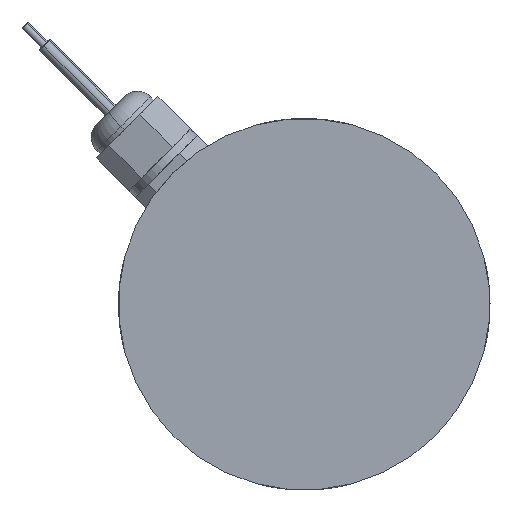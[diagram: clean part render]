
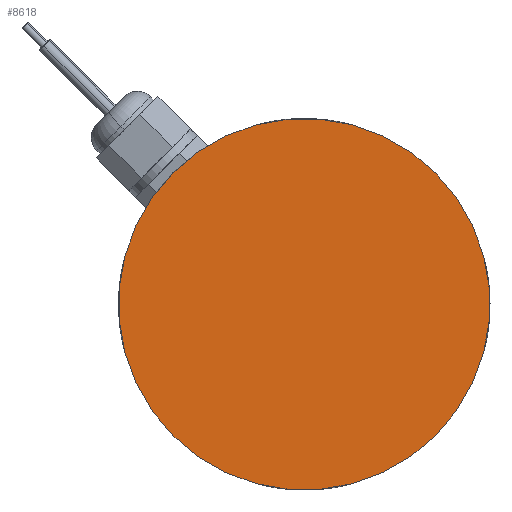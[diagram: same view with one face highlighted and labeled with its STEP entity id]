
A CAD part, left-side view. The second image highlights one B-rep face of the part: STEP entity #8618.
In plain terms, the highlighted planar face has unit normal (-1, 0, 0).
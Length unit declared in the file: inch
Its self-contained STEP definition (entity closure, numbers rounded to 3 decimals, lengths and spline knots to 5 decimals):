
#694 = CARTESIAN_POINT ( 'NONE',  ( -2.25027, 6.13337, 6.63344 ) ) ;
#830 = VERTEX_POINT ( 'NONE', #11796 ) ;
#1307 = CIRCLE ( 'NONE', #9217, 2. ) ;
#1996 = AXIS2_PLACEMENT_3D ( 'NONE', #10330, #12402, #2447 ) ;
#2036 = CARTESIAN_POINT ( 'NONE',  ( -2.25027, 4.71916, 8.04765 ) ) ;
#2400 = PLANE ( 'NONE',  #1996 ) ;
#2447 = DIRECTION ( 'NONE',  ( 0., -0.707, 0.707 ) ) ;
#3165 = EDGE_CURVE ( 'NONE', #830, #6399, #1307, .T. ) ;
#3465 = ORIENTED_EDGE ( 'NONE', *, *, #5404, .F. ) ;
#3638 = CIRCLE ( 'NONE', #7113, 2. ) ;
#4057 = DIRECTION ( 'NONE',  ( 1., 0., 0. ) ) ;
#4650 = CARTESIAN_POINT ( 'NONE',  ( -2.25027, 4.71916, 8.04765 ) ) ;
#5404 = EDGE_CURVE ( 'NONE', #6399, #830, #3638, .T. ) ;
#5635 = DIRECTION ( 'NONE',  ( 1., 0., 0. ) ) ;
#6399 = VERTEX_POINT ( 'NONE', #694 ) ;
#6538 = ORIENTED_EDGE ( 'NONE', *, *, #3165, .F. ) ;
#6987 = EDGE_LOOP ( 'NONE', ( #3465, #6538 ) ) ;
#7113 = AXIS2_PLACEMENT_3D ( 'NONE', #4650, #5635, #8575 ) ;
#8575 = DIRECTION ( 'NONE',  ( 0., -0.707, 0.707 ) ) ;
#8618 = ADVANCED_FACE ( 'NONE', ( #8966 ), #2400, .F. ) ;
#8966 = FACE_OUTER_BOUND ( 'NONE', #6987, .T. ) ;
#9217 = AXIS2_PLACEMENT_3D ( 'NONE', #2036, #4057, #11985 ) ;
#10330 = CARTESIAN_POINT ( 'NONE',  ( -2.25027, 4.71916, 8.04765 ) ) ;
#11796 = CARTESIAN_POINT ( 'NONE',  ( -2.25027, 3.30494, 9.46186 ) ) ;
#11985 = DIRECTION ( 'NONE',  ( 0., -0.707, 0.707 ) ) ;
#12402 = DIRECTION ( 'NONE',  ( 1., 0., 0. ) ) ;
